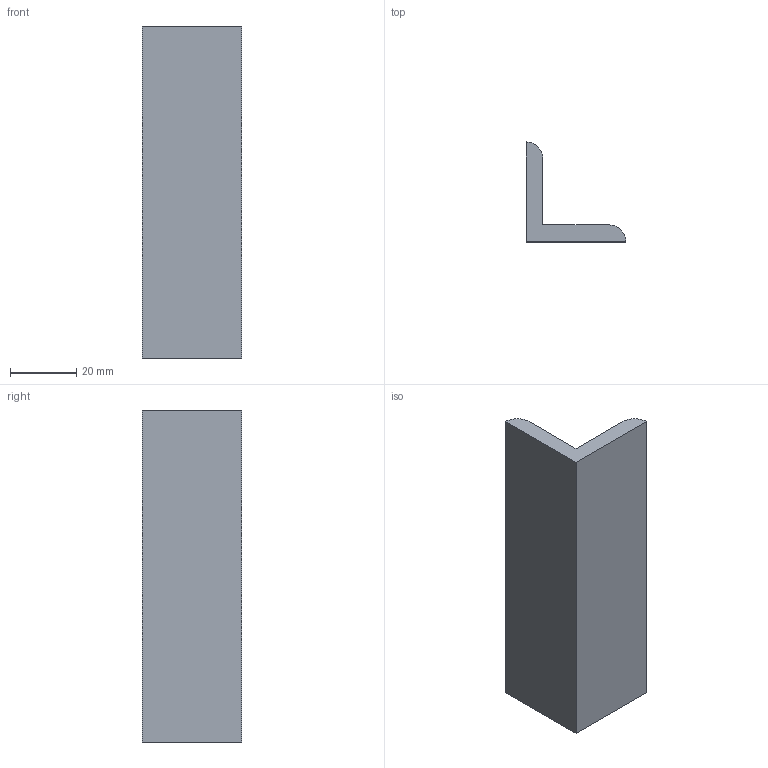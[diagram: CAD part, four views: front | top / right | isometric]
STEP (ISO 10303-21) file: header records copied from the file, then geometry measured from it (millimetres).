
FILE_DESCRIPTION (( 'STEP AP203' ), '1' );
FILE_NAME ('WL3030.STEP', '2024-02-19T12:05:34', ( '' ), ( '' ), 'SwSTEP 2.0', 'SolidWorks 2022', '' );
FILE_SCHEMA (( 'CONFIG_CONTROL_DESIGN' ));
Length unit declared in the file: millimetre
Products named in the file (1): WL3030
Bounding box: 30 x 30 x 100 mm (x, y, z)
Volume: 26427 mm3; surface area: 12099.3 mm2
Topology: 1 solids, 1 shells, 8 faces, 18 edges, 12 vertices
Faces by surface type: plane 6, cylinder 2
Entity records: 303 total; most frequent: DIRECTION 40, CARTESIAN_POINT 39, ORIENTED_EDGE 36, EDGE_CURVE 18, LINE 14, VECTOR 14, AXIS2_PLACEMENT_3D 13, VERTEX_POINT 12
